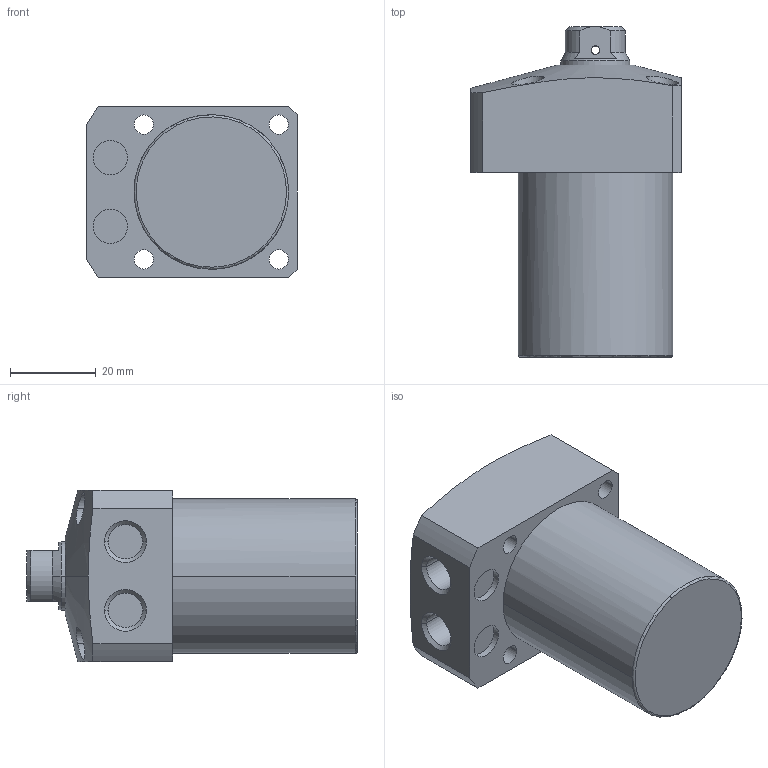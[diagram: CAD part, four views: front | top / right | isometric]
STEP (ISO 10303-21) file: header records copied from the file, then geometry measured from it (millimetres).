
FILE_DESCRIPTION((' '),'2;1');
FILE_NAME( 'TLL-036CB-035.STEP.stp', '2025-10-24T16:39:38', (' '), ('--- Datakit www.datakit.com---'), ' Datakit CrossCadWare V2024.1 Dec 21 2023', 'Mastercam 2025', ' ');
FILE_SCHEMA(('AUTOMOTIVE_DESIGN { 1 0 10303 214 1 1 1 1 }'));
Length unit declared in the file: millimetre
Products named in the file (1): TLL-036CB-035
Bounding box: 49 x 77 x 40 mm (x, y, z)
Volume: 85188.8 mm3; surface area: 15071.3 mm2
Topology: 1 solids, 1 shells, 76 faces, 227 edges, 162 vertices
Faces by surface type: cylinder 38, plane 22, cone 14, torus 2
Entity records: 5612 total; most frequent: CARTESIAN_POINT 3460, DIRECTION 454, ORIENTED_EDGE 450, EDGE_CURVE 225, AXIS2_PLACEMENT_3D 194, VERTEX_POINT 162, CIRCLE 117, EDGE_LOOP 99
